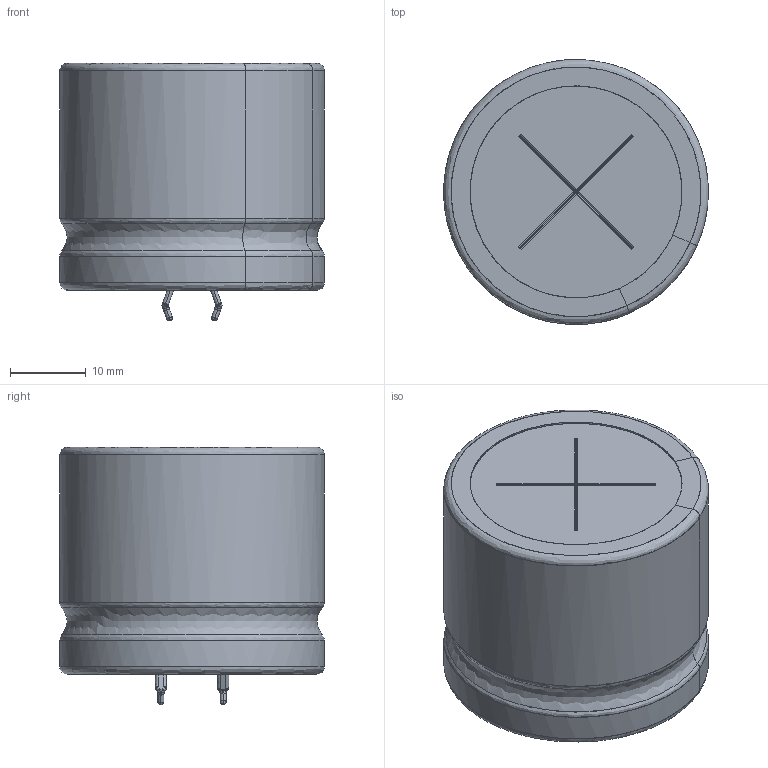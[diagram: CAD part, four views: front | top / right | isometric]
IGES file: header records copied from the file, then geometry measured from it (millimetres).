
Start section: JAMA-IS VERSION  1.0
Bounding box: 34.98 x 34.98 x 34.02 mm (x, y, z)
Surface area: 13078.3 mm2 (no closed solid volume)
Topology: 0 solids, 0 shells, 208 faces, 2354 edges, 2318 vertices
Faces by surface type: bspline 208
